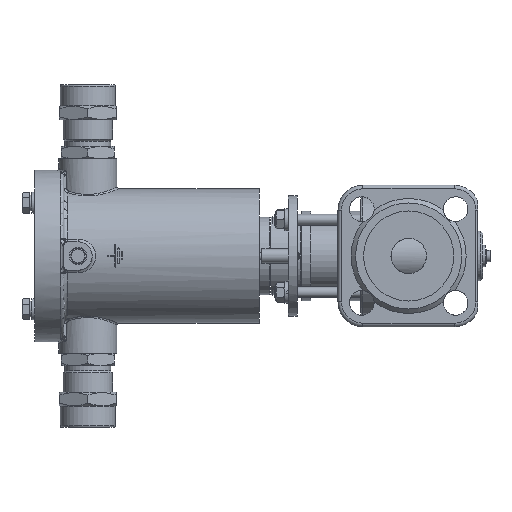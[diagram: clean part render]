
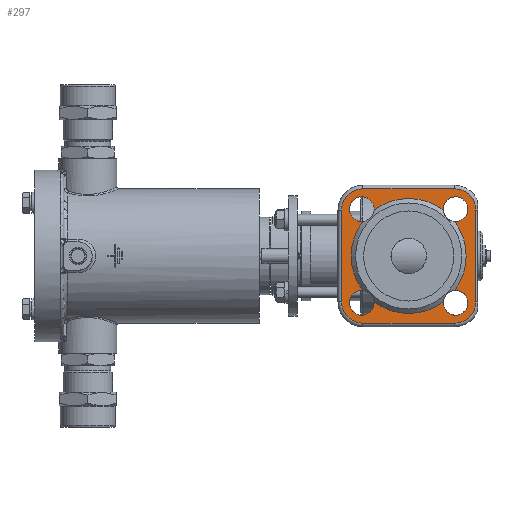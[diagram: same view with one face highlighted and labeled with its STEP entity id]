
A CAD part, left-side view. The second image highlights one B-rep face of the part: STEP entity #297.
In plain terms, the highlighted planar face has unit normal (-1, 0, 0).
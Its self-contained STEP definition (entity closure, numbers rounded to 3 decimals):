
#297=ADVANCED_FACE('',(#7036,#7038),#7040,.T.);
#7036=FACE_BOUND('',#7037,.T.);
#7037=EDGE_LOOP('',(#22328,#22329,#22330,#22331,#22332,#22333,#22334,#22335,#22336,
#22337,#22338,#22339,#22340));
#7038=FACE_OUTER_BOUND('',#7039,.T.);
#7039=EDGE_LOOP('',(#22341,#22342,#22343,#22344,#22345,#22346,#22347,#22348));
#7040=PLANE('',#7041);
#7041=AXIS2_PLACEMENT_3D('',#7042,#7043,#7044);
#7042=CARTESIAN_POINT('',(-63.5,0.,0.));
#7043=DIRECTION('',(-1.,0.,0.));
#7044=DIRECTION('',(0.,1.,0.));
#22328=ORIENTED_EDGE('',*,*,#35210,.T.);
#22329=ORIENTED_EDGE('',*,*,#35212,.T.);
#22330=ORIENTED_EDGE('',*,*,#35280,.T.);
#22331=ORIENTED_EDGE('',*,*,#35198,.T.);
#22332=ORIENTED_EDGE('',*,*,#35200,.T.);
#22333=ORIENTED_EDGE('',*,*,#35281,.T.);
#22334=ORIENTED_EDGE('',*,*,#35202,.T.);
#22335=ORIENTED_EDGE('',*,*,#35204,.T.);
#22336=ORIENTED_EDGE('',*,*,#35282,.T.);
#22337=ORIENTED_EDGE('',*,*,#35283,.T.);
#22338=ORIENTED_EDGE('',*,*,#35206,.T.);
#22339=ORIENTED_EDGE('',*,*,#35208,.T.);
#22340=ORIENTED_EDGE('',*,*,#35284,.T.);
#22341=ORIENTED_EDGE('',*,*,#35285,.T.);
#22342=ORIENTED_EDGE('',*,*,#35286,.T.);
#22343=ORIENTED_EDGE('',*,*,#35287,.T.);
#22344=ORIENTED_EDGE('',*,*,#35288,.T.);
#22345=ORIENTED_EDGE('',*,*,#35289,.T.);
#22346=ORIENTED_EDGE('',*,*,#35290,.T.);
#22347=ORIENTED_EDGE('',*,*,#35291,.T.);
#22348=ORIENTED_EDGE('',*,*,#35292,.T.);
#35198=EDGE_CURVE('',#40252,#40250,#40253,.F.);
#35200=EDGE_CURVE('',#40250,#40254,#40256,.F.);
#35202=EDGE_CURVE('',#40259,#40257,#40260,.F.);
#35204=EDGE_CURVE('',#40257,#40261,#40263,.F.);
#35206=EDGE_CURVE('',#40266,#40264,#40267,.F.);
#35208=EDGE_CURVE('',#40264,#40268,#40270,.F.);
#35210=EDGE_CURVE('',#40273,#40271,#40274,.F.);
#35212=EDGE_CURVE('',#40271,#40275,#40277,.F.);
#35280=EDGE_CURVE('',#40275,#40252,#40384,.T.);
#35281=EDGE_CURVE('',#40254,#40259,#40385,.T.);
#35282=EDGE_CURVE('',#40261,#40386,#40387,.T.);
#35283=EDGE_CURVE('',#40386,#40266,#40388,.T.);
#35284=EDGE_CURVE('',#40268,#40273,#40389,.T.);
#35285=EDGE_CURVE('',#40390,#40391,#40392,.F.);
#35286=EDGE_CURVE('',#40391,#40393,#40394,.T.);
#35287=EDGE_CURVE('',#40393,#40395,#40396,.F.);
#35288=EDGE_CURVE('',#40395,#40397,#40398,.T.);
#35289=EDGE_CURVE('',#40397,#40399,#40400,.F.);
#35290=EDGE_CURVE('',#40399,#40401,#40402,.T.);
#35291=EDGE_CURVE('',#40401,#40403,#40404,.F.);
#35292=EDGE_CURVE('',#40403,#40390,#40405,.T.);
#40250=VERTEX_POINT('',#52437);
#40252=VERTEX_POINT('',#52441);
#40253=CIRCLE('',#52442,7.);
#40254=VERTEX_POINT('',#52446);
#40256=CIRCLE('',#52545,7.);
#40257=VERTEX_POINT('',#52549);
#40259=VERTEX_POINT('',#52553);
#40260=CIRCLE('',#52554,7.);
#40261=VERTEX_POINT('',#52558);
#40263=CIRCLE('',#52657,7.);
#40264=VERTEX_POINT('',#52661);
#40266=VERTEX_POINT('',#52665);
#40267=CIRCLE('',#52666,7.);
#40268=VERTEX_POINT('',#52670);
#40270=CIRCLE('',#52769,7.);
#40271=VERTEX_POINT('',#52773);
#40273=VERTEX_POINT('',#52777);
#40274=CIRCLE('',#52778,7.);
#40275=VERTEX_POINT('',#52782);
#40277=CIRCLE('',#52881,7.);
#40384=CIRCLE('',#53392,32.5);
#40385=CIRCLE('',#53396,32.5);
#40386=VERTEX_POINT('',#53400);
#40387=CIRCLE('',#53401,32.5);
#40388=CIRCLE('',#53405,32.5);
#40389=CIRCLE('',#53409,32.5);
#40390=VERTEX_POINT('',#53413);
#40391=VERTEX_POINT('',#53414);
#40392=LINE('',#53415,#53416);
#40393=VERTEX_POINT('',#53418);
#40394=CIRCLE('',#53419,12.);
#40395=VERTEX_POINT('',#53423);
#40396=LINE('',#53424,#53425);
#40397=VERTEX_POINT('',#53427);
#40398=CIRCLE('',#53428,12.);
#40399=VERTEX_POINT('',#53432);
#40400=LINE('',#53433,#53434);
#40401=VERTEX_POINT('',#53436);
#40402=CIRCLE('',#53437,12.);
#40403=VERTEX_POINT('',#53441);
#40404=LINE('',#53442,#53443);
#40405=CIRCLE('',#53445,12.);
#52437=CARTESIAN_POINT('',(-63.5,-26.517,-33.517));
#52441=CARTESIAN_POINT('',(-63.5,-25.972,-19.538));
#52442=AXIS2_PLACEMENT_3D('',#52443,#52444,#52445);
#52443=CARTESIAN_POINT('',(-63.5,-26.517,-26.517));
#52444=DIRECTION('',(-1.,0.,-0.));
#52445=DIRECTION('',(0.,0.,-1.));
#52446=CARTESIAN_POINT('',(-63.5,-19.538,-25.972));
#52545=AXIS2_PLACEMENT_3D('',#52546,#52547,#52548);
#52546=CARTESIAN_POINT('',(-63.5,-26.517,-26.517));
#52547=DIRECTION('',(-1.,0.,-0.));
#52548=DIRECTION('',(0.,0.997,0.078));
#52549=CARTESIAN_POINT('',(-63.5,26.517,-33.517));
#52553=CARTESIAN_POINT('',(-63.5,19.538,-25.972));
#52554=AXIS2_PLACEMENT_3D('',#52555,#52556,#52557);
#52555=CARTESIAN_POINT('',(-63.5,26.517,-26.517));
#52556=DIRECTION('',(-1.,0.,-0.));
#52557=DIRECTION('',(0.,0.,-1.));
#52558=CARTESIAN_POINT('',(-63.5,25.972,-19.538));
#52657=AXIS2_PLACEMENT_3D('',#52658,#52659,#52660);
#52658=CARTESIAN_POINT('',(-63.5,26.517,-26.517));
#52659=DIRECTION('',(-1.,0.,-0.));
#52660=DIRECTION('',(0.,-0.078,0.997));
#52661=CARTESIAN_POINT('',(-63.5,26.517,19.517));
#52665=CARTESIAN_POINT('',(-63.5,25.972,19.538));
#52666=AXIS2_PLACEMENT_3D('',#52667,#52668,#52669);
#52667=CARTESIAN_POINT('',(-63.5,26.517,26.517));
#52668=DIRECTION('',(-1.,0.,-0.));
#52669=DIRECTION('',(0.,0.,-1.));
#52670=CARTESIAN_POINT('',(-63.5,19.538,25.972));
#52769=AXIS2_PLACEMENT_3D('',#52770,#52771,#52772);
#52770=CARTESIAN_POINT('',(-63.5,26.517,26.517));
#52771=DIRECTION('',(-1.,0.,-0.));
#52772=DIRECTION('',(0.,-0.997,-0.078));
#52773=CARTESIAN_POINT('',(-63.5,-26.517,19.517));
#52777=CARTESIAN_POINT('',(-63.5,-19.538,25.972));
#52778=AXIS2_PLACEMENT_3D('',#52779,#52780,#52781);
#52779=CARTESIAN_POINT('',(-63.5,-26.517,26.517));
#52780=DIRECTION('',(-1.,0.,-0.));
#52781=DIRECTION('',(0.,0.,-1.));
#52782=CARTESIAN_POINT('',(-63.5,-25.972,19.538));
#52881=AXIS2_PLACEMENT_3D('',#52882,#52883,#52884);
#52882=CARTESIAN_POINT('',(-63.5,-26.517,26.517));
#52883=DIRECTION('',(-1.,0.,-0.));
#52884=DIRECTION('',(0.,0.078,-0.997));
#53392=AXIS2_PLACEMENT_3D('',#53393,#53394,#53395);
#53393=CARTESIAN_POINT('',(-63.5,0.,0.));
#53394=DIRECTION('',(1.,0.,0.));
#53395=DIRECTION('',(0.,-0.799,0.601));
#53396=AXIS2_PLACEMENT_3D('',#53397,#53398,#53399);
#53397=CARTESIAN_POINT('',(-63.5,0.,0.));
#53398=DIRECTION('',(1.,0.,0.));
#53399=DIRECTION('',(0.,-0.601,-0.799));
#53400=CARTESIAN_POINT('',(-63.5,32.5,0.));
#53401=AXIS2_PLACEMENT_3D('',#53402,#53403,#53404);
#53402=CARTESIAN_POINT('',(-63.5,0.,0.));
#53403=DIRECTION('',(1.,0.,0.));
#53404=DIRECTION('',(0.,0.799,-0.601));
#53405=AXIS2_PLACEMENT_3D('',#53406,#53407,#53408);
#53406=CARTESIAN_POINT('',(-63.5,0.,0.));
#53407=DIRECTION('',(1.,0.,0.));
#53408=DIRECTION('',(0.,1.,0.));
#53409=AXIS2_PLACEMENT_3D('',#53410,#53411,#53412);
#53410=CARTESIAN_POINT('',(-63.5,0.,0.));
#53411=DIRECTION('',(1.,0.,0.));
#53412=DIRECTION('',(0.,0.601,0.799));
#53413=CARTESIAN_POINT('',(-63.5,26.,-38.));
#53414=CARTESIAN_POINT('',(-63.5,-26.,-38.));
#53415=CARTESIAN_POINT('',(-63.5,-26.,-38.));
#53416=VECTOR('',#53417,1.);
#53417=DIRECTION('',(0.,1.,0.));
#53418=CARTESIAN_POINT('',(-63.5,-38.,-26.));
#53419=AXIS2_PLACEMENT_3D('',#53420,#53421,#53422);
#53420=CARTESIAN_POINT('',(-63.5,-26.,-26.));
#53421=DIRECTION('',(-1.,0.,-0.));
#53422=DIRECTION('',(0.,0.,-1.));
#53423=CARTESIAN_POINT('',(-63.5,-38.,26.));
#53424=CARTESIAN_POINT('',(-63.5,-38.,26.));
#53425=VECTOR('',#53426,1.);
#53426=DIRECTION('',(0.,0.,-1.));
#53427=CARTESIAN_POINT('',(-63.5,-26.,38.));
#53428=AXIS2_PLACEMENT_3D('',#53429,#53430,#53431);
#53429=CARTESIAN_POINT('',(-63.5,-26.,26.));
#53430=DIRECTION('',(-1.,-0.,0.));
#53431=DIRECTION('',(0.,-1.,0.));
#53432=CARTESIAN_POINT('',(-63.5,26.,38.));
#53433=CARTESIAN_POINT('',(-63.5,26.,38.));
#53434=VECTOR('',#53435,1.);
#53435=DIRECTION('',(0.,-1.,0.));
#53436=CARTESIAN_POINT('',(-63.5,38.,26.));
#53437=AXIS2_PLACEMENT_3D('',#53438,#53439,#53440);
#53438=CARTESIAN_POINT('',(-63.5,26.,26.));
#53439=DIRECTION('',(-1.,0.,0.));
#53440=DIRECTION('',(0.,0.,1.));
#53441=CARTESIAN_POINT('',(-63.5,38.,-26.));
#53442=CARTESIAN_POINT('',(-63.5,38.,-26.));
#53443=VECTOR('',#53444,1.);
#53444=DIRECTION('',(0.,0.,1.));
#53445=AXIS2_PLACEMENT_3D('',#53446,#53447,#53448);
#53446=CARTESIAN_POINT('',(-63.5,26.,-26.));
#53447=DIRECTION('',(-1.,0.,0.));
#53448=DIRECTION('',(0.,1.,0.));
